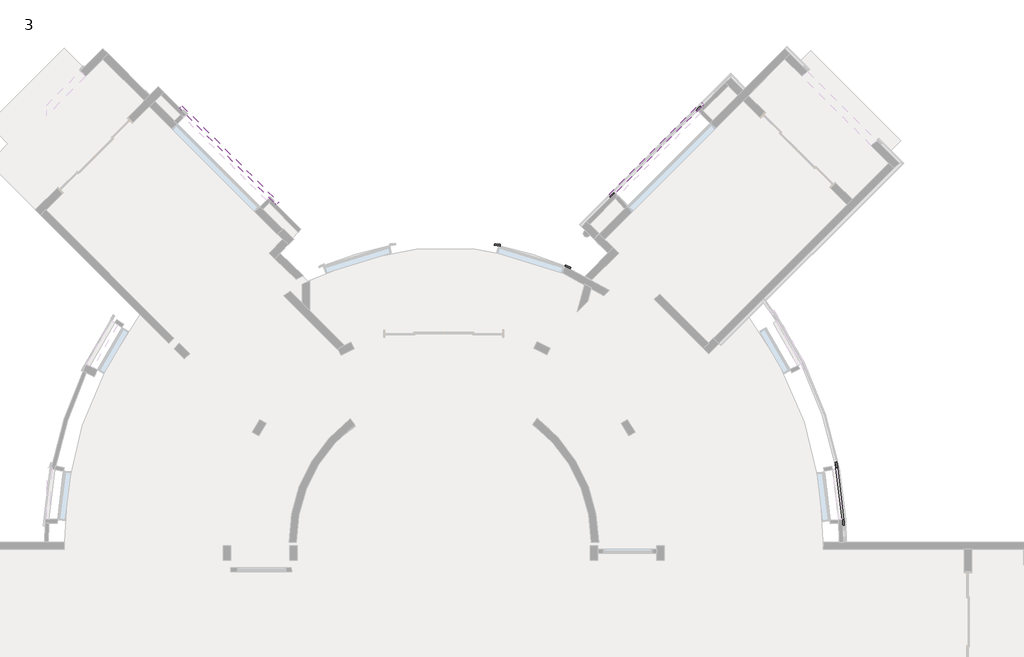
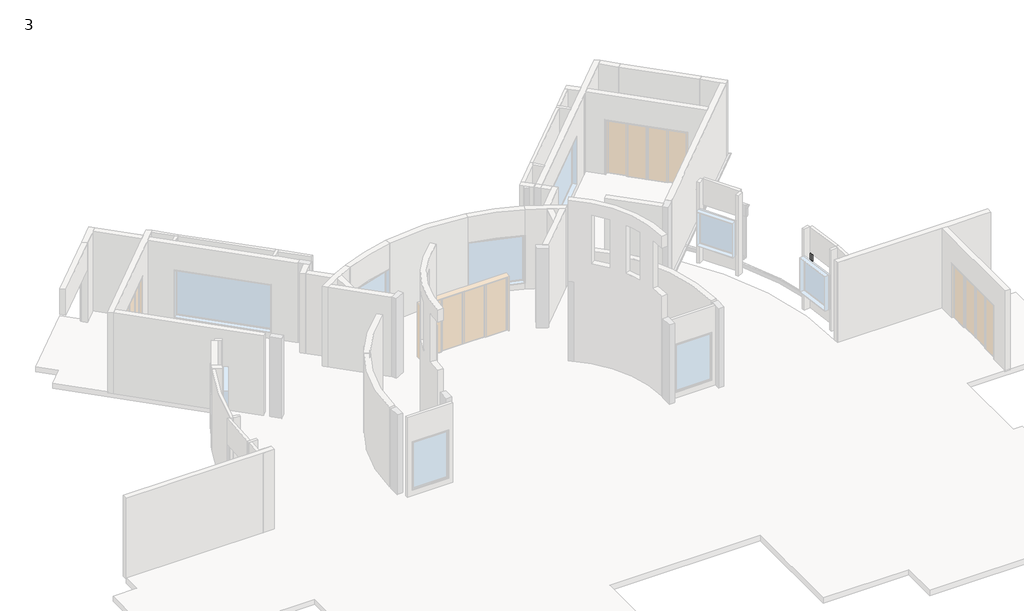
# One storey, part 10 of 12: 9 proxies.
"""IFC4 building model written with IfcOpenShell, lengths in millimetres."""

from ifc_helpers import new_model, si_unit, frame, origin, place, context, project, spatial, polyline, circle_curve, ellipse_curve, outline, extrude, element, save
from ifc_brep_helpers import plane_surface, cylinder_surface, revolved_surface, advanced_brep

model = new_model("IFC4")

# Units and contexts
model_context = context("Model", 3, world=origin())
ifc_project = project(units=[si_unit("LENGTHUNIT", "METRE", prefix="MILLI")], contexts=[model_context])

# Site, building, storey
site = spatial("IfcSite", under=ifc_project)
building = spatial("IfcBuilding", under=site)
storey = spatial("IfcBuildingStorey", under=building, Name="3", Elevation=3581.4)

# Proxies
placement = place(None, origin())
element("IfcBuildingElementProxy", 1, Name="Cornice", ObjectType="Cornice", at=placement, inside=storey, context=model_context, shape_type="AdvancedBrep", body=[
    advanced_brep(
    [(3794.462252, 2953.5387644, 4527.55), (3844.2907074, 2963.4263846, 4527.55), (3844.2907074, 2963.4263846, 4375.15), (3831.8335935, 2960.9544795, 4375.15), (3831.8335935, 2960.9544795, 4343.4), (3794.462252, 2953.5387644, 4343.4), (4019.8961353, 1084.3310941, 4527.55), (4019.8961353, 1084.3310941, 4343.4), (4057.9589918, 1086.0130435, 4343.4), (4057.9589918, 1086.0130435, 4375.15), (4070.6466106, 1086.5736932, 4375.15), (4070.6466106, 1086.5736932, 4527.55)],
    [
        (0, 1),
        (1, 2),
        (2, 3),
        (3, 4),
        (4, 5),
        (5, 0),
        (6, 7),
        (7, 8),
        (8, 9),
        (9, 10),
        (10, 11),
        (11, 6),
        (11, 1, circle_curve(frame((-8388.5950906, 536.0156211, 4527.55), z_axis=(0.0, 0.0, 1.0), x_axis=(0.9808751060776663, 0.19463819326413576, 0.0)), 12471.4)),
        (0, 6, circle_curve(frame((-8388.5950906, 536.0156211, 4527.55), z_axis=(0.0, 0.0, -1.0), x_axis=(0.9808751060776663, 0.19463819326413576, 0.0)), 12420.6)),
        (10, 2, circle_curve(frame((-8388.5950906, 536.0156211, 4375.15), z_axis=(0.0, 0.0, 1.0), x_axis=(0.9808751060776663, 0.19463819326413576, 0.0)), 12471.4)),
        (9, 3, circle_curve(frame((-8388.5950906, 536.0156211, 4375.15), z_axis=(0.0, 0.0, 1.0), x_axis=(0.9808751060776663, 0.19463819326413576, 0.0)), 12458.7)),
        (8, 4, circle_curve(frame((-8388.5950906, 536.0156211, 4343.4), z_axis=(0.0, 0.0, 1.0), x_axis=(0.9808751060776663, 0.19463819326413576, 0.0)), 12458.7)),
        (7, 5, circle_curve(frame((-8388.5950906, 536.0156211, 4343.4), z_axis=(0.0, 0.0, 1.0), x_axis=(0.9808751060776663, 0.19463819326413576, 0.0)), 12420.6)),
    ],
    [
        plane_surface(frame((-8388.5950906, 536.0156211, 4343.4), z_axis=(-0.19463819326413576, 0.9808751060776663, 0.0), x_axis=(0.9808751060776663, 0.19463819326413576, 0.0))),
        plane_surface(frame((-8388.5950906, 536.0156211, 4343.4), z_axis=(0.04414565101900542, -0.9990251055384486, 0.0), x_axis=(0.9990251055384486, 0.04414565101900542, 0.0))),
        plane_surface(frame((-8388.5950906, 536.0156211, 4527.55), z_axis=(0.0, 0.0, 1.0), x_axis=(0.9808751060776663, 0.19463819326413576, 0.0))),
        cylinder_surface(frame((-8388.5950906, 536.0156211, 4343.4), z_axis=(0.0, 0.0, -1.0), x_axis=(0.9808751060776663, 0.19463819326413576, 0.0)), 12471.4),
        plane_surface(frame((-8388.5950906, 536.0156211, 4375.15), z_axis=(0.0, 0.0, -1.0), x_axis=(0.9808751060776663, 0.19463819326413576, 0.0))),
        cylinder_surface(frame((-8388.5950906, 536.0156211, 4343.4), z_axis=(0.0, 0.0, -1.0), x_axis=(0.9808751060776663, 0.19463819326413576, 0.0)), 12458.7),
        plane_surface(frame((-8388.5950906, 536.0156211, 4343.4), z_axis=(0.0, 0.0, -1.0), x_axis=(0.9808751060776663, 0.19463819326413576, 0.0))),
        revolved_surface(polyline([(3794.462251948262, 2953.5387643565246, 4343.4), (3794.462251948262, 2953.5387643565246, 4527.55)]), (-8388.5950906, 536.0156211, 4343.4), (0.0, 0.0, -1.0)),
    ],
    [
        (0, [[1, 2, 3, 4, 5, 6]]),
        (1, [[7, 8, 9, 10, 11, 12]]),
        (2, [[13, -1, 14, -12]]),
        (3, [[15, -2, -13, -11]]),
        (4, [[16, -3, -15, -10]]),
        (5, [[17, -4, -16, -9]]),
        (6, [[18, -5, -17, -8]]),
        (7, [[-14, -6, -18, -7]]),
    ],
),
])
element("IfcBuildingElementProxy", 2, Name="Cornice", ObjectType="Cornice", at=placement, inside=storey, context=model_context, shape_type="SweptSolid", body=[
    extrude(outline(polyline([(3782.1385071, 3021.666296), (3832.0563127, 3031.0924663), (3860.3348235, 2881.3390495), (3847.8553721, 2878.9825069), (3853.7467285, 2847.7838785), (3816.3083743, 2840.7142508), (3782.1385071, 3021.666296)])), frame((0.0, 0.0, 4343.4), z_axis=(0.0, 0.0, 1.0), x_axis=(1.0, 0.0, 0.0)), (0.0, 0.0, 1.0), 1676.4),
])
element("IfcBuildingElementProxy", 3, Name="Cornice", ObjectType="Cornice", at=placement, inside=storey, context=model_context, shape_type="SweptSolid", body=[
    extrude(outline(polyline([(4022.7822559, 1048.7806213), (4012.4539692, 1232.6407556), (4050.493997, 1234.7776425), (4052.2747361, 1203.0776194), (4064.9547453, 1203.789915), (4073.502293, 1051.6298038), (4022.7822559, 1048.7806213)])), frame((0.0, 0.0, 4343.4), z_axis=(0.0, 0.0, 1.0), x_axis=(1.0, 0.0, 0.0)), (0.0, 0.0, 1.0), 1676.4),
])
element("IfcBuildingElementProxy", 4, Name="Cornice", ObjectType="Cornice", at=placement, inside=storey, context=model_context, shape_type="SweptSolid", body=[
    extrude(outline(polyline([(-508.0887694, 13937.1949538), (-544.0097939, 13973.1159783), (-436.2467204, 14080.8790518), (-427.2664643, 14071.8987956), (-404.815824, 14094.3494359), (-377.8750556, 14067.4086676), (-508.0887694, 13937.1949538)])), frame((0.0, 0.0, 3860.8), z_axis=(0.0, 0.0, 1.0), x_axis=(1.0, 0.0, 0.0)), (0.0, 0.0, 1.0), 2159.0),
])
element("IfcBuildingElementProxy", 5, Name="Cornice", ObjectType="Cornice", at=placement, inside=storey, context=model_context, shape_type="SweptSolid", body=[
    extrude(outline(polyline([(-4456.6260461, 9043.5576956), (-4625.2783226, 9117.5011345), (-4609.97968, 9152.3947089), (-4580.9017013, 9139.6458401), (-4575.8021538, 9151.2770316), (-4436.2278561, 9090.0824615), (-4456.6260461, 9043.5576956)])), frame((0.0, 0.0, 3886.2), z_axis=(0.0, 0.0, 1.0), x_axis=(1.0, 0.0, 0.0)), (0.0, 0.0, 1.0), 2159.0),
])
element("IfcBuildingElementProxy", 6, Name="Cornice", ObjectType="Cornice", at=placement, inside=storey, context=model_context, shape_type="SweptSolid", body=[
    extrude(outline(polyline([(-6636.9429272, 9742.9561512), (-6818.4901223, 9773.8080303), (-6812.1069749, 9811.369519), (-6780.8057344, 9806.0502294), (-6778.6780186, 9818.5707257), (-6628.432064, 9793.038136), (-6636.9429272, 9742.9561512)])), frame((0.0, 0.0, 3708.4), z_axis=(0.0, 0.0, 1.0), x_axis=(1.0, 0.0, 0.0)), (0.0, 0.0, 1.0), 2336.8),
])
element("IfcBuildingElementProxy", 7, Name="Cornice", ObjectType="Cornice", at=placement, inside=storey, context=model_context, shape_type="SweptSolid", body=[
    extrude(outline(polyline([(-3196.8847279, 11248.3989953), (-3232.8057524, 11284.3200198), (-3125.0426789, 11392.0830933), (-3116.0624228, 11383.1028371), (-3093.6117825, 11405.5534774), (-3066.6710141, 11378.6127091), (-3196.8847279, 11248.3989953)])), frame((0.0, 0.0, 3886.2), z_axis=(0.0, 0.0, 1.0), x_axis=(1.0, 0.0, 0.0)), (0.0, 0.0, 1.0), 2133.6),
])
element("IfcBuildingElementProxy", 8, Name="Cornice 2", ObjectType="Cornice 2", at=placement, inside=storey, context=model_context, shape_type="AdvancedBrep", body=[
    advanced_brep(
    [(-16611.4862245, 14034.1908307, 6515.1), (-16611.4862245, 14034.1908307, 6489.7), (-16598.0158403, 14020.7204465, 6489.7), (-16598.0158403, 14020.7204465, 6438.9), (-16598.0158403, 14020.7204465, 6419.85), (-16587.0508368, 14009.755443, 6419.85), (-16587.0508368, 14009.755443, 6064.25), (-16578.0705807, 14000.7751869, 6064.25), (-16578.0705807, 14000.7751869, 6019.8), (-16535.1540475, 13957.8586536, 6019.8), (-16535.1540475, 13957.8586536, 6515.1), (-16535.1540475, 14110.5230077, 6515.1), (-16535.1540475, 14110.5230077, 6489.7), (-16535.1540475, 14083.5822393, 6489.7), (-16535.1540475, 14083.5822393, 6438.9), (-16535.1540475, 14083.5822393, 6419.85), (-16535.1540475, 14061.6522323, 6419.85), (-16535.1540475, 14061.6522323, 6064.25), (-16535.1540475, 14043.6917201, 6064.25), (-16535.1540475, 14043.6917201, 6019.8), (-13526.7682469, 11102.1372071, 6515.1), (-13526.7682469, 11102.1372071, 6489.7), (-13553.7090153, 11102.1372071, 6489.7), (-13553.7090153, 11102.1372071, 6438.9), (-13553.7090153, 11102.1372071, 6419.85), (-13575.6390223, 11102.1372071, 6419.85), (-13575.6390223, 11102.1372071, 6064.25), (-13593.5995345, 11102.1372071, 6064.25), (-13593.5995345, 11102.1372071, 6019.8), (-13679.432601, 11102.1372071, 6019.8), (-13679.432601, 11102.1372071, 6515.1), (-13603.1004239, 11025.8050301, 6515.1), (-13636.5160677, 11059.2206739, 6019.8), (-13636.5160677, 11059.2206739, 6064.25), (-13627.5358116, 11050.2404178, 6064.25), (-13627.5358116, 11050.2404178, 6419.85), (-13616.5708081, 11039.2754143, 6419.85), (-13616.5708081, 11039.2754143, 6438.9), (-13616.5708081, 11039.2754143, 6489.7), (-13603.1004239, 11025.8050301, 6489.7)],
    [
        (0, 1),
        (1, 2),
        (2, 3, circle_curve(frame((-16589.2279588, 14011.932565, 6464.3), z_axis=(-0.707106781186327, -0.7071067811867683, 0.0), x_axis=(-0.7071067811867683, 0.707106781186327, 0.0)), 28.2774419)),
        (3, 4),
        (4, 5),
        (5, 6),
        (6, 7),
        (7, 8),
        (8, 9),
        (9, 10),
        (10, 0),
        (0, 11),
        (11, 12),
        (12, 1),
        (12, 13),
        (13, 2),
        (13, 14, ellipse_curve(frame((-16535.1540475, 14066.0064764, 6464.3), z_axis=(-1.0, 0.0, 0.0), x_axis=(0.0, -1.0, 0.0)), 39.9903419, 28.2774419)),
        (14, 3),
        (14, 15),
        (15, 4),
        (15, 16),
        (16, 5),
        (16, 17),
        (17, 6),
        (17, 18),
        (18, 7),
        (18, 19),
        (19, 8),
        (19, 9),
        (10, 11),
        (11, 20),
        (20, 21),
        (21, 12),
        (21, 22),
        (22, 13),
        (22, 23, ellipse_curve(frame((-13571.2847782, 11102.1372071, 6464.3), z_axis=(0.0, 1.0, 0.0), x_axis=(-1.0, 0.0, 0.0)), 39.9903419, 28.2774419)),
        (23, 14),
        (23, 24),
        (24, 15),
        (24, 25),
        (25, 16),
        (25, 26),
        (26, 17),
        (26, 27),
        (27, 18),
        (27, 28),
        (28, 19),
        (28, 29),
        (29, 9),
        (29, 30),
        (30, 10),
        (30, 20),
        (31, 30),
        (29, 32),
        (32, 33),
        (33, 34),
        (34, 35),
        (35, 36),
        (36, 37),
        (37, 38, circle_curve(frame((-13625.3586896, 11048.0632958, 6464.3), z_axis=(-0.7071067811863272, -0.7071067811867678, 0.0), x_axis=(0.7071067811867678, -0.7071067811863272, 0.0)), 28.2774419)),
        (38, 39),
        (39, 31),
        (20, 31),
        (39, 21),
        (38, 22),
        (37, 23),
        (36, 24),
        (35, 25),
        (34, 26),
        (33, 27),
        (32, 28),
    ],
    [
        plane_surface(frame((-16449.8416143, 13872.5462205, 6019.8), z_axis=(-0.7071067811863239, -0.7071067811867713, 0.0), x_axis=(-0.7071067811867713, 0.7071067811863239, 0.0))),
        plane_surface(frame((-16611.4862245, 14034.1908307, 6515.1), z_axis=(-0.7071067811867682, 0.7071067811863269, 0.0), x_axis=(0.7071067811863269, 0.7071067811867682, 0.0))),
        plane_surface(frame((-16611.4862245, 14034.1908307, 6489.7), z_axis=(0.0, 0.0, -1.0), x_axis=(0.7071067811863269, 0.7071067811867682, 0.0))),
        cylinder_surface(frame((-16589.2279588, 14011.932565, 6464.3), z_axis=(-0.707106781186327, -0.7071067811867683, 0.0), x_axis=(-0.7071067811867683, 0.707106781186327, 0.0)), 28.2774419),
        plane_surface(frame((-16598.0158403, 14020.7204465, 6438.9), z_axis=(-0.7071067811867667, 0.7071067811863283, 0.0), x_axis=(0.7071067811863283, 0.7071067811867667, 0.0))),
        plane_surface(frame((-16598.0158403, 14020.7204465, 6419.85), z_axis=(0.0, 0.0, -1.0), x_axis=(0.7071067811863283, 0.7071067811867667, 0.0))),
        plane_surface(frame((-16587.0508368, 14009.755443, 6419.85), z_axis=(-0.7071067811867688, 0.7071067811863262, 0.0), x_axis=(0.7071067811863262, 0.7071067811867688, 0.0))),
        plane_surface(frame((-16587.0508368, 14009.755443, 6064.25), z_axis=(0.0, 0.0, -1.0), x_axis=(0.7071067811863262, 0.7071067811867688, 0.0))),
        plane_surface(frame((-16578.0705807, 14000.7751869, 6064.25), z_axis=(-0.7071067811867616, 0.7071067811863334, 0.0), x_axis=(0.7071067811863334, 0.7071067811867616, 0.0))),
        plane_surface(frame((-16578.0705807, 14000.7751869, 6019.8), z_axis=(0.0, 0.0, -1.0), x_axis=(0.7071067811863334, 0.7071067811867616, 0.0))),
        plane_surface(frame((-16535.1540475, 13957.8586536, 6515.1), z_axis=(0.0, 0.0, 1.0), x_axis=(0.7071067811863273, 0.7071067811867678, 0.0))),
        plane_surface(frame((-16535.1540475, 14110.5230077, 6515.1), z_axis=(0.7071067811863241, 0.7071067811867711, 0.0), x_axis=(0.7071067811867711, -0.7071067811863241, 0.0))),
        plane_surface(frame((-16535.1540475, 14110.5230077, 6489.7), z_axis=(0.0, 0.0, -1.0), x_axis=(0.7071067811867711, -0.7071067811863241, 0.0))),
        cylinder_surface(frame((-16481.0801361, 14011.932565, 6464.3), z_axis=(-0.7071067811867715, 0.7071067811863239, 0.0), x_axis=(0.7071067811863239, 0.7071067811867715, 0.0)), 28.2774419),
        plane_surface(frame((-16535.1540475, 14083.5822393, 6438.9), z_axis=(0.7071067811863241, 0.707106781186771, 0.0), x_axis=(0.707106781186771, -0.7071067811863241, 0.0))),
        plane_surface(frame((-16535.1540475, 14083.5822393, 6419.85), z_axis=(0.0, 0.0, -1.0000000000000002), x_axis=(0.707106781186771, -0.7071067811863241, 0.0))),
        plane_surface(frame((-16535.1540475, 14061.6522323, 6419.85), z_axis=(0.707106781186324, 0.7071067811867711, 0.0), x_axis=(0.7071067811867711, -0.707106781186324, 0.0))),
        plane_surface(frame((-16535.1540475, 14061.6522323, 6064.25), z_axis=(0.0, 0.0, -1.0), x_axis=(0.7071067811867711, -0.707106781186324, 0.0))),
        plane_surface(frame((-16535.1540475, 14043.6917201, 6064.25), z_axis=(0.7071067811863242, 0.7071067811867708, 0.0), x_axis=(0.7071067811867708, -0.7071067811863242, 0.0))),
        plane_surface(frame((-16535.1540475, 14043.6917201, 6019.8), z_axis=(0.0, 0.0, -1.0), x_axis=(0.7071067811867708, -0.7071067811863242, 0.0))),
        plane_surface(frame((-16535.1540475, 13957.8586536, 6019.8), z_axis=(-0.707106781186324, -0.7071067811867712, 0.0), x_axis=(0.7071067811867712, -0.707106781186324, 0.0))),
        plane_surface(frame((-16535.1540475, 13957.8586536, 6515.1), z_axis=(0.0, 0.0, 1.0000000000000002), x_axis=(0.7071067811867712, -0.707106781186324, 0.0))),
        plane_surface(frame((-13526.7682469, 11102.1372071, 6515.1), z_axis=(0.7071067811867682, -0.7071067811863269, 0.0), x_axis=(-0.7071067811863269, -0.7071067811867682, 0.0))),
        plane_surface(frame((-13526.7682469, 11102.1372071, 6489.7), z_axis=(0.0, 0.0, -1.0), x_axis=(-0.7071067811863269, -0.7071067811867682, 0.0))),
        cylinder_surface(frame((-13625.3586896, 11048.0632958, 6464.3), z_axis=(0.7071067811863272, 0.7071067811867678, 0.0), x_axis=(0.7071067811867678, -0.7071067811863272, 0.0)), 28.2774419),
        plane_surface(frame((-13553.7090153, 11102.1372071, 6438.9), z_axis=(0.707106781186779, -0.7071067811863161, 0.0), x_axis=(-0.7071067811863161, -0.707106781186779, 0.0))),
        plane_surface(frame((-13553.7090153, 11102.1372071, 6419.85), z_axis=(0.0, 0.0, -1.0), x_axis=(-0.7071067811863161, -0.707106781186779, 0.0))),
        plane_surface(frame((-13575.6390223, 11102.1372071, 6419.85), z_axis=(0.7071067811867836, -0.7071067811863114, 0.0), x_axis=(-0.7071067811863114, -0.7071067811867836, 0.0))),
        plane_surface(frame((-13575.6390223, 11102.1372071, 6064.25), z_axis=(0.0, 0.0, -1.0), x_axis=(-0.7071067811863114, -0.7071067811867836, 0.0))),
        plane_surface(frame((-13593.5995345, 11102.1372071, 6064.25), z_axis=(0.7071067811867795, -0.7071067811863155, 0.0), x_axis=(-0.7071067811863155, -0.7071067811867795, 0.0))),
        plane_surface(frame((-13593.5995345, 11102.1372071, 6019.8), z_axis=(0.0, 0.0, -1.0), x_axis=(-0.7071067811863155, -0.7071067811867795, 0.0))),
        plane_surface(frame((-13679.432601, 11102.1372071, 6515.1), z_axis=(0.0, 0.0, 1.0), x_axis=(-0.7071067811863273, -0.7071067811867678, 0.0))),
    ],
    [
        (0, [[1, 2, 3, 4, 5, 6, 7, 8, 9, 10, 11]]),
        (1, [[-1, 12, 13, 14]]),
        (2, [[-2, -14, 15, 16]]),
        (3, [[-3, -16, 17, 18]]),
        (4, [[-4, -18, 19, 20]]),
        (5, [[-5, -20, 21, 22]]),
        (6, [[-6, -22, 23, 24]]),
        (7, [[-7, -24, 25, 26]]),
        (8, [[-8, -26, 27, 28]]),
        (9, [[-9, -28, 29]]),
        (10, [[-11, 30, -12]]),
        (11, [[-13, 31, 32, 33]]),
        (12, [[-15, -33, 34, 35]]),
        (13, [[-17, -35, 36, 37]]),
        (14, [[-19, -37, 38, 39]]),
        (15, [[-21, -39, 40, 41]]),
        (16, [[-23, -41, 42, 43]]),
        (17, [[-25, -43, 44, 45]]),
        (18, [[-27, -45, 46, 47]]),
        (19, [[-29, -47, 48, 49]]),
        (20, [[-10, -49, 50, 51]]),
        (21, [[-30, -51, 52, -31]]),
        (0, [[53, -50, 54, 55, 56, 57, 58, 59, 60, 61, 62]]),
        (22, [[-32, 63, -62, 64]]),
        (23, [[-34, -64, -61, 65]]),
        (24, [[-36, -65, -60, 66]]),
        (25, [[-38, -66, -59, 67]]),
        (26, [[-40, -67, -58, 68]]),
        (27, [[-42, -68, -57, 69]]),
        (28, [[-44, -69, -56, 70]]),
        (29, [[-46, -70, -55, 71]]),
        (30, [[-48, -71, -54]]),
        (31, [[-52, -53, -63]]),
    ],
),
])
element("IfcBuildingElementProxy", 9, Name="Cornice 2", ObjectType="Cornice 2", at=placement, inside=storey, context=model_context, shape_type="AdvancedBrep", body=[
    advanced_brep(
    [(-3245.88362, 11352.0644572, 6515.1), (-3245.88362, 11352.0644572, 6489.7), (-3232.4132358, 11338.5940731, 6489.7), (-3232.4132358, 11338.5940731, 6438.9), (-3232.4132358, 11338.5940731, 6419.85), (-3221.4482323, 11327.6290696, 6419.85), (-3221.4482323, 11327.6290696, 6064.25), (-3212.4679762, 11318.6488134, 6064.25), (-3212.4679762, 11318.6488134, 6019.8), (-3169.551443, 11275.7322802, 6019.8), (-3169.551443, 11275.7322802, 6515.1), (-377.8750556, 14220.0730216, 6515.1), (-377.8750556, 14220.0730216, 6489.7), (-377.8750556, 14193.1322533, 6489.7), (-377.8750556, 14193.1322533, 6438.9), (-377.8750556, 14193.1322533, 6419.85), (-377.8750556, 14171.2022463, 6419.85), (-377.8750556, 14171.2022463, 6064.25), (-377.8750556, 14153.241734, 6064.25), (-377.8750556, 14153.241734, 6019.8), (-377.8750556, 14067.4086676, 6019.8), (-377.8750556, 14067.4086676, 6515.1), (-301.5428786, 14143.7408446, 6515.1), (-334.9585224, 14110.3252008, 6019.8), (-334.9585224, 14110.3252008, 6064.25), (-325.9782663, 14119.3054569, 6064.25), (-325.9782663, 14119.3054569, 6419.85), (-315.0132628, 14130.2704604, 6419.85), (-315.0132628, 14130.2704604, 6438.9), (-315.0132628, 14130.2704604, 6489.7), (-301.5428786, 14143.7408446, 6489.7)],
    [
        (0, 1),
        (1, 2),
        (2, 3, circle_curve(frame((-3223.6253544, 11329.8061916, 6464.3), z_axis=(-0.7071067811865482, -0.7071067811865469, 0.0), x_axis=(-0.7071067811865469, 0.7071067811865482, 0.0)), 28.2774419)),
        (3, 4),
        (4, 5),
        (5, 6),
        (6, 7),
        (7, 8),
        (8, 9),
        (9, 10),
        (10, 0),
        (0, 11),
        (11, 12),
        (12, 1),
        (12, 13),
        (13, 2),
        (13, 14, ellipse_curve(frame((-377.8750556, 14175.5564903, 6464.3), z_axis=(-1.0, 0.0, 0.0), x_axis=(0.0, -1.0, 0.0)), 39.9903419, 28.2774419)),
        (14, 3),
        (14, 15),
        (15, 4),
        (15, 16),
        (16, 5),
        (16, 17),
        (17, 6),
        (17, 18),
        (18, 7),
        (18, 19),
        (19, 8),
        (19, 20),
        (20, 9),
        (20, 21),
        (21, 10),
        (21, 11),
        (22, 21),
        (20, 23),
        (23, 24),
        (24, 25),
        (25, 26),
        (26, 27),
        (27, 28),
        (28, 29, circle_curve(frame((-323.8011442, 14121.482579, 6464.3), z_axis=(0.7071067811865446, -0.7071067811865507, 0.0), x_axis=(0.7071067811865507, 0.7071067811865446, 0.0)), 28.2774419)),
        (29, 30),
        (30, 22),
        (11, 22),
        (30, 12),
        (29, 13),
        (28, 14),
        (27, 15),
        (26, 16),
        (25, 17),
        (24, 18),
        (23, 19),
    ],
    [
        plane_surface(frame((-3169.551443, 11275.7322802, 6526.7273049), z_axis=(-0.7071067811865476, -0.7071067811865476, 0.0), x_axis=(0.7071067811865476, -0.7071067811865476, 0.0))),
        plane_surface(frame((-3245.88362, 11352.0644572, 6515.1), z_axis=(-0.7071067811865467, 0.7071067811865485, 0.0), x_axis=(0.7071067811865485, 0.7071067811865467, 0.0))),
        plane_surface(frame((-3245.88362, 11352.0644572, 6489.7), z_axis=(0.0, 0.0, -1.0000000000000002), x_axis=(0.7071067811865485, 0.7071067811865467, 0.0))),
        cylinder_surface(frame((-3223.6253544, 11329.8061916, 6464.3), z_axis=(-0.7071067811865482, -0.7071067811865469, 0.0), x_axis=(-0.7071067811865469, 0.7071067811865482, 0.0)), 28.2774419),
        plane_surface(frame((-3232.4132358, 11338.5940731, 6438.9), z_axis=(-0.7071067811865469, 0.7071067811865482, 0.0), x_axis=(0.7071067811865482, 0.7071067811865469, 0.0))),
        plane_surface(frame((-3232.4132358, 11338.5940731, 6419.85), z_axis=(0.0, 0.0, -1.0), x_axis=(0.7071067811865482, 0.7071067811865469, 0.0))),
        plane_surface(frame((-3221.4482323, 11327.6290696, 6419.85), z_axis=(-0.7071067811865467, 0.7071067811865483, 0.0), x_axis=(0.7071067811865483, 0.7071067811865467, 0.0))),
        plane_surface(frame((-3221.4482323, 11327.6290696, 6064.25), z_axis=(0.0, 0.0, -1.0), x_axis=(0.7071067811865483, 0.7071067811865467, 0.0))),
        plane_surface(frame((-3212.4679762, 11318.6488134, 6064.25), z_axis=(-0.7071067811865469, 0.7071067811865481, 0.0), x_axis=(0.7071067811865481, 0.7071067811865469, 0.0))),
        plane_surface(frame((-3212.4679762, 11318.6488134, 6019.8), z_axis=(0.0, 0.0, -1.0), x_axis=(0.7071067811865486, 0.7071067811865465, 0.0))),
        plane_surface(frame((-3169.551443, 11275.7322802, 6019.8), z_axis=(0.7071067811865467, -0.7071067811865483, 0.0), x_axis=(0.7071067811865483, 0.7071067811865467, 0.0))),
        plane_surface(frame((-3169.551443, 11275.7322802, 6515.1), z_axis=(0.0, 0.0, 1.0), x_axis=(0.7071067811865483, 0.7071067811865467, 0.0))),
        plane_surface(frame((-3076.44202, 11368.8417032, 6019.8), z_axis=(0.7071067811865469, -0.7071067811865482, 0.0), x_axis=(-0.7071067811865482, -0.7071067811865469, 0.0))),
        plane_surface(frame((-377.8750556, 14220.0730216, 6515.1), z_axis=(0.7071067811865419, 0.7071067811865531, 0.0), x_axis=(0.7071067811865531, -0.7071067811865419, 0.0))),
        plane_surface(frame((-377.8750556, 14220.0730216, 6489.7), z_axis=(0.0, 0.0, -1.0), x_axis=(0.7071067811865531, -0.7071067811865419, 0.0))),
        cylinder_surface(frame((-323.8011442, 14121.482579, 6464.3), z_axis=(-0.7071067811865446, 0.7071067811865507, 0.0), x_axis=(0.7071067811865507, 0.7071067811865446, 0.0)), 28.2774419),
        plane_surface(frame((-377.8750556, 14193.1322533, 6438.9), z_axis=(0.7071067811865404, 0.7071067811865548, 0.0), x_axis=(0.7071067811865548, -0.7071067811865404, 0.0))),
        plane_surface(frame((-377.8750556, 14193.1322533, 6419.85), z_axis=(0.0, 0.0, -1.0000000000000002), x_axis=(0.7071067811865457, -0.7071067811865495, 0.0))),
        plane_surface(frame((-377.8750556, 14171.2022463, 6419.85), z_axis=(0.7071067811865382, 0.7071067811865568, 0.0), x_axis=(0.7071067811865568, -0.7071067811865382, 0.0))),
        plane_surface(frame((-377.8750556, 14171.2022463, 6064.25), z_axis=(0.0, 0.0, -1.0), x_axis=(0.7071067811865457, -0.7071067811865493, 0.0))),
        plane_surface(frame((-377.8750556, 14153.241734, 6064.25), z_axis=(0.7071067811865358, 0.7071067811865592, 0.0), x_axis=(0.7071067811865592, -0.7071067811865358, 0.0))),
        plane_surface(frame((-377.8750556, 14153.241734, 6019.8), z_axis=(0.0, 0.0, -1.0), x_axis=(0.7071067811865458, -0.7071067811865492, 0.0))),
        plane_surface(frame((-377.8750556, 14067.4086676, 6515.1), z_axis=(0.0, 0.0, 1.0000000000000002), x_axis=(0.7071067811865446, -0.7071067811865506, 0.0))),
    ],
    [
        (0, [[1, 2, 3, 4, 5, 6, 7, 8, 9, 10, 11]]),
        (1, [[-1, 12, 13, 14]]),
        (2, [[-2, -14, 15, 16]]),
        (3, [[-3, -16, 17, 18]]),
        (4, [[-4, -18, 19, 20]]),
        (5, [[-5, -20, 21, 22]]),
        (6, [[-6, -22, 23, 24]]),
        (7, [[-7, -24, 25, 26]]),
        (8, [[-8, -26, 27, 28]]),
        (9, [[-9, -28, 29, 30]]),
        (10, [[-10, -30, 31, 32]]),
        (11, [[-11, -32, 33, -12]]),
        (12, [[34, -31, 35, 36, 37, 38, 39, 40, 41, 42, 43]]),
        (13, [[-13, 44, -43, 45]]),
        (14, [[-15, -45, -42, 46]]),
        (15, [[-17, -46, -41, 47]]),
        (16, [[-19, -47, -40, 48]]),
        (17, [[-21, -48, -39, 49]]),
        (18, [[-23, -49, -38, 50]]),
        (19, [[-25, -50, -37, 51]]),
        (20, [[-27, -51, -36, 52]]),
        (21, [[-29, -52, -35]]),
        (22, [[-33, -34, -44]]),
    ],
),
])

save(model, "model.ifc")
